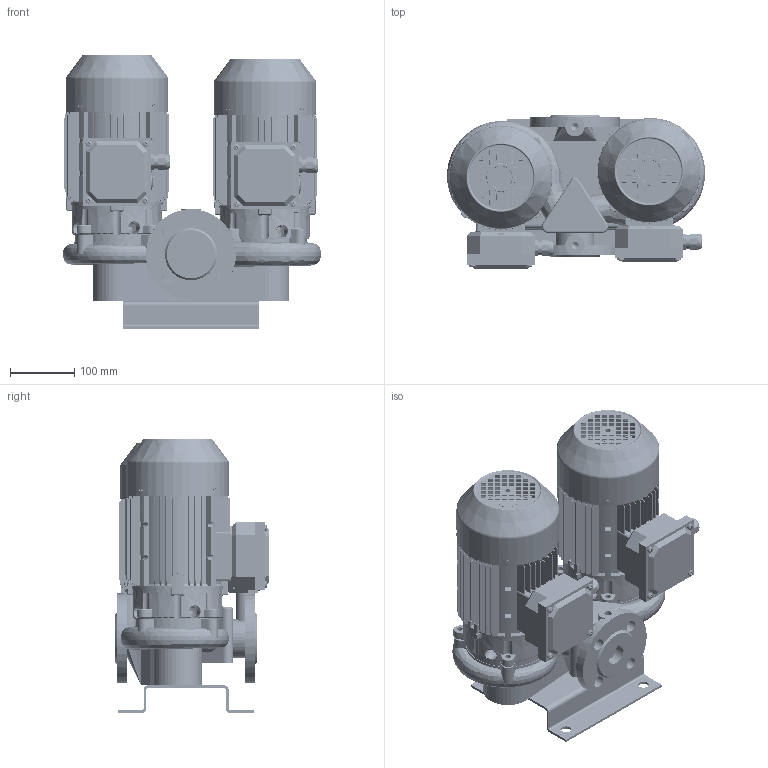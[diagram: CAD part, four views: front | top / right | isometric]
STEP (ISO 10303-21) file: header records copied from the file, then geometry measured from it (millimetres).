
FILE_DESCRIPTION(('STEP AP214'),'1');
FILE_NAME('export.stp','2018-05-30T07:17:25',(' '),(' '),'Spatial InterOp 3D',' ',' ');
FILE_SCHEMA(('AUTOMOTIVE_DESIGN { 1 0 10303 214 1 1 1 1 }'));
Length unit declared in the file: millimetre
Products named in the file (34): W_T32A2650_KP80; V_TLL32AAP15AKP25; V_PPT32A; V_JALKA35973; 160018; 160002_Valu; V_KP80-1_N12; M5x8_DIN; DIN_7985-M5X8; 160141; M5x12_DIN; DIN_7985-M5X12; 160137; 160138; 160139; 160140; Koura_Ale_M5; Plug_Blind_M20; Sealing_Plug_M20; plain_washer_grade_a_din_Washer_; 160039___; 160040___; 160133
Assembly tree (54 placements, depth 5):
  W_T32A2650_KP80
    V_TLL32AAP15AKP25  x2
    V_PPT32A
    V_JALKA35973
    V_KP80-1_N12
      160018
        160002_Valu
      160141
        M5x8_DIN
          DIN_7985-M5X8
        M5x12_DIN
          DIN_7985-M5X12
        M5x12_DIN
          DIN_7985-M5X12
        M5x12_DIN
          DIN_7985-M5X12
        M5x12_DIN
          DIN_7985-M5X12
        160137
        160138
        160139
        160140
        Koura_Ale_M5
        Plug_Blind_M20
        Sealing_Plug_M20
        plain_washer_grade_a_din_Washer_
      160039___
      160040___
      160133
    V_KP80-1_N12
      160018
        160002_Valu
      160141
        M5x8_DIN
          DIN_7985-M5X8
        M5x12_DIN
          DIN_7985-M5X12
        M5x12_DIN
          DIN_7985-M5X12
        M5x12_DIN
          DIN_7985-M5X12
        M5x12_DIN
          DIN_7985-M5X12
        160137
        160138
        160139
        160140
        Koura_Ale_M5
        Plug_Blind_M20
        Sealing_Plug_M20
        plain_washer_grade_a_din_Washer_
      160039___
      160040___
      160133
Bounding box: 401 x 238.5 x 425.5 mm (x, y, z)
Volume: 8316811.9 mm3; surface area: 3079266.7 mm2
Topology: 38 solids, 38 shells, 5829 faces, 15231 edges, 9493 vertices
Faces by surface type: plane 2184, cylinder 1742, bspline 893, torus 604, cone 280, sphere 126
Entity records: 129956 total; most frequent: CARTESIAN_POINT 54313, ORIENTED_EDGE 15662, DIRECTION 13835, EDGE_CURVE 7831, AXIS2_PLACEMENT_3D 5244, VERTEX_POINT 4923, LINE 3347, VECTOR 3347
